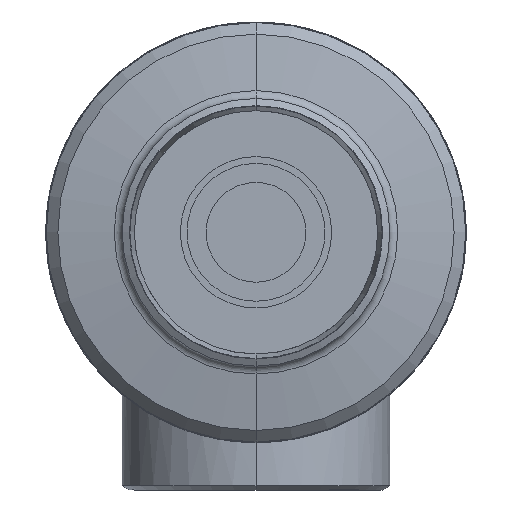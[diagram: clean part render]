
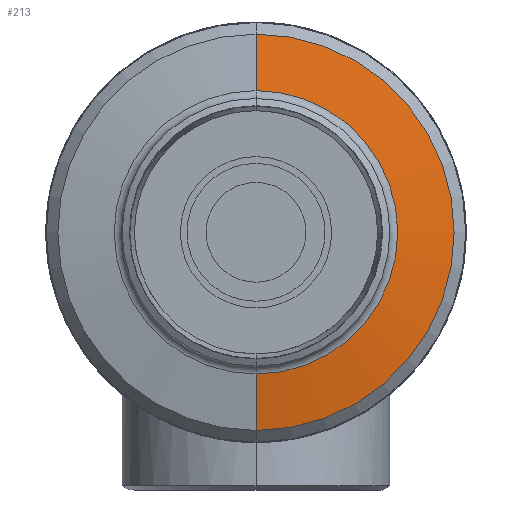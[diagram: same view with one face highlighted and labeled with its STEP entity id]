
A CAD part, front view. The second image highlights one B-rep face of the part: STEP entity #213.
In plain terms, the highlighted conical face has half-angle 80 degrees and reference radius 109.5 mm.
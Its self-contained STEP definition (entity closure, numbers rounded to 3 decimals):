
#111 = CIRCLE ( 'NONE', #112, 73.982 ) ;
#112 = AXIS2_PLACEMENT_3D ( 'NONE', #113, #114, #115 ) ;
#113 = CARTESIAN_POINT ( 'NONE',  ( 0., -21.763, 0. ) ) ;
#114 = DIRECTION ( 'NONE',  ( 0., 1., 0. ) ) ;
#115 = DIRECTION ( 'NONE',  ( 0., 0., -1. ) ) ;
#196 = CARTESIAN_POINT ( 'NONE',  ( 0., -16.57, 103.43 ) ) ;
#213 = ADVANCED_FACE ( 'NONE', ( #9106 ), #9107, .T. ) ;
#551 = CARTESIAN_POINT ( 'NONE',  ( 0., -16.57, -103.43 ) ) ;
#836 = CIRCLE ( 'NONE', #837, 103.43 ) ;
#837 = AXIS2_PLACEMENT_3D ( 'NONE', #838, #839, #840 ) ;
#838 = CARTESIAN_POINT ( 'NONE',  ( 0., -16.57, 0. ) ) ;
#839 = DIRECTION ( 'NONE',  ( 0., -1., 0. ) ) ;
#840 = DIRECTION ( 'NONE',  ( 0., 0., -1. ) ) ;
#4379 = LINE ( 'NONE', #4380, #4381 ) ;
#4380 = CARTESIAN_POINT ( 'NONE',  ( 0., -15.5, 109.5 ) ) ;
#4381 = VECTOR ( 'NONE', #4382, 1000. ) ;
#4382 = DIRECTION ( 'NONE',  ( 0., 0.174, 0.985 ) ) ;
#5540 = EDGE_CURVE ( 'NONE', #11782, #8778, #4379, .T. ) ;
#5909 = ORIENTED_EDGE ( 'NONE', *, *, #5540, .F. ) ;
#6416 = ORIENTED_EDGE ( 'NONE', *, *, #8827, .T. ) ;
#6846 = EDGE_CURVE ( 'NONE', #11557, #8802, #7143, .T. ) ;
#7143 = LINE ( 'NONE', #7144, #7145 ) ;
#7144 = CARTESIAN_POINT ( 'NONE',  ( 0., -15.5, -109.5 ) ) ;
#7145 = VECTOR ( 'NONE', #7146, 1000. ) ;
#7146 = DIRECTION ( 'NONE',  ( 0., 0.174, -0.985 ) ) ;
#7740 = CARTESIAN_POINT ( 'NONE',  ( 0., -21.763, -73.982 ) ) ;
#8778 = VERTEX_POINT ( 'NONE', #196 ) ;
#8802 = VERTEX_POINT ( 'NONE', #551 ) ;
#8827 = EDGE_CURVE ( 'NONE', #8802, #8778, #836, .T. ) ;
#9106 = FACE_OUTER_BOUND ( 'NONE', #13030, .T. ) ;
#9107 = CONICAL_SURFACE ( 'NONE', #9108, 109.5, 1.396 ) ;
#9108 = AXIS2_PLACEMENT_3D ( 'NONE', #9109, #9110, #9116 ) ;
#9109 = CARTESIAN_POINT ( 'NONE',  ( 0., -15.5, 0. ) ) ;
#9110 = DIRECTION ( 'NONE',  ( 0., 1., 0. ) ) ;
#9116 = DIRECTION ( 'NONE',  ( 0., 0., 1. ) ) ;
#11048 = ORIENTED_EDGE ( 'NONE', *, *, #6846, .T. ) ;
#11557 = VERTEX_POINT ( 'NONE', #7740 ) ;
#11782 = VERTEX_POINT ( 'NONE', #12914 ) ;
#12000 = EDGE_CURVE ( 'NONE', #11782, #11557, #111, .T. ) ;
#12363 = ORIENTED_EDGE ( 'NONE', *, *, #12000, .T. ) ;
#12914 = CARTESIAN_POINT ( 'NONE',  ( 0., -21.763, 73.982 ) ) ;
#13030 = EDGE_LOOP ( 'NONE', ( #12363, #11048, #6416, #5909 ) ) ;
